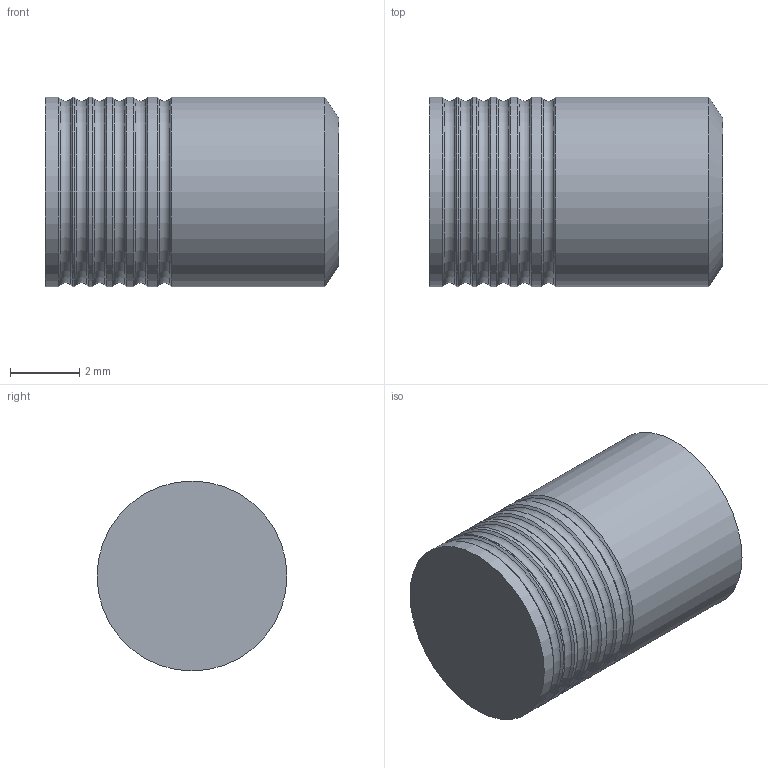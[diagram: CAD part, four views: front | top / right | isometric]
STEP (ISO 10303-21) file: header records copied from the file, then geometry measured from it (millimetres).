
FILE_DESCRIPTION(/* description */ ('LEE CHEK, 558 SERIES, REVERSE, SCREENED'),/* implementation_level */ '2;1');
FILE_NAME(/* name */ '\\ABSOLUTE\SmWork\Vernon\CCRM2553XXXS.stp',/* time_stamp */ '2021-03-23T13:57:57-04:00',/* author */ ('VernonJ'),/* organization */ (''),/* preprocessor_version */ 'ST-DEVELOPER v18',/* originating_system */ 'Autodesk Inventor 2020',/* authorisation */ '');
FILE_SCHEMA (('AUTOMOTIVE_DESIGN { 1 0 10303 214 3 1 1 }'));
Length unit declared in the file: millimetre
Products named in the file (1): CCRM2553XXXS
Bounding box: 8.48 x 5.49 x 5.49 mm (x, y, z)
Volume: 195.5 mm3; surface area: 195.7 mm2
Topology: 1 solids, 1 shells, 28 faces, 92 edges, 66 vertices
Faces by surface type: cone 13, cylinder 7, torus 6, plane 2
Full cylindrical faces by diameter (mm): 5.49 x7
Entity records: 1121 total; most frequent: DIRECTION 222, CARTESIAN_POINT 187, ORIENTED_EDGE 184, AXIS2_PLACEMENT_3D 101, EDGE_CURVE 92, CIRCLE 72, VERTEX_POINT 66, FACE_OUTER_BOUND 28
